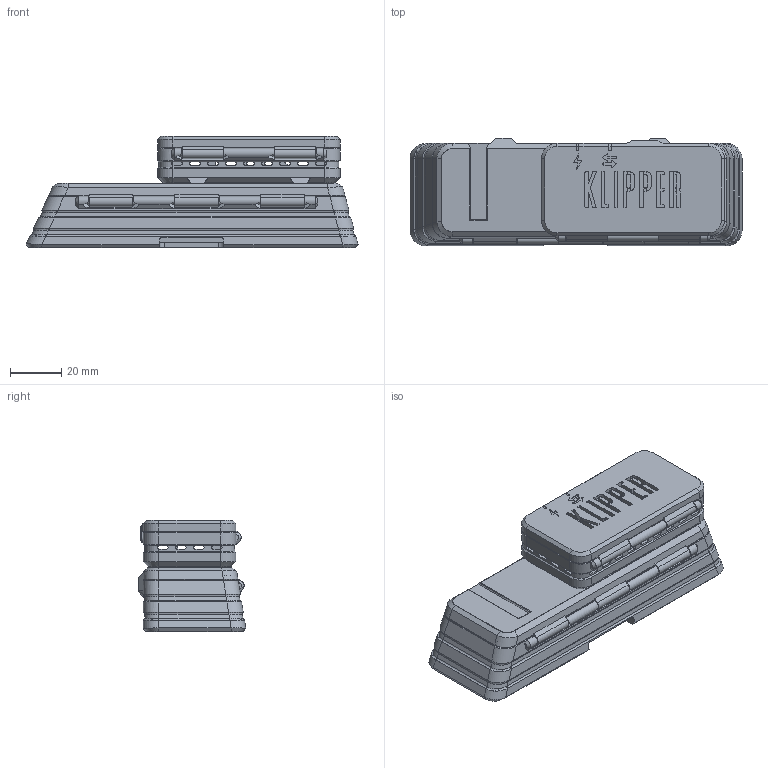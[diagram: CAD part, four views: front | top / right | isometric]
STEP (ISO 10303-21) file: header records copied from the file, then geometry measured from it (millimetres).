
FILE_DESCRIPTION (( 'STEP AP203' ), '1' );
FILE_NAME ('GUMOPi02W.STEP', '2022-03-13T15:20:40', ( 'Windows 使用者' ), ( '' ), 'SwSTEP 2.0', 'SolidWorks 2016', '' );
FILE_SCHEMA (( 'CONFIG_CONTROL_DESIGN' ));
Length unit declared in the file: millimetre
Products named in the file (3): Pi02W_GUMOCASE; S1_Side_CABLE_BOX; GUMOPi02W
Assembly tree (2 placements, depth 2):
  GUMOPi02W
    Pi02W_GUMOCASE
    S1_Side_CABLE_BOX
Bounding box: 129 x 41.81 x 43.2 mm (x, y, z)
Volume: 48507.2 mm3; surface area: 52563.4 mm2
Topology: 6 solids, 6 shells, 1161 faces, 3117 edges, 1963 vertices
Faces by surface type: plane 626, cylinder 245, bspline 147, cone 139, torus 4
Entity records: 41578 total; most frequent: CARTESIAN_POINT 13248, ORIENTED_EDGE 6230, DIRECTION 5304, EDGE_CURVE 3115, LINE 2052, VECTOR 2052, VERTEX_POINT 1963, AXIS2_PLACEMENT_3D 1626
